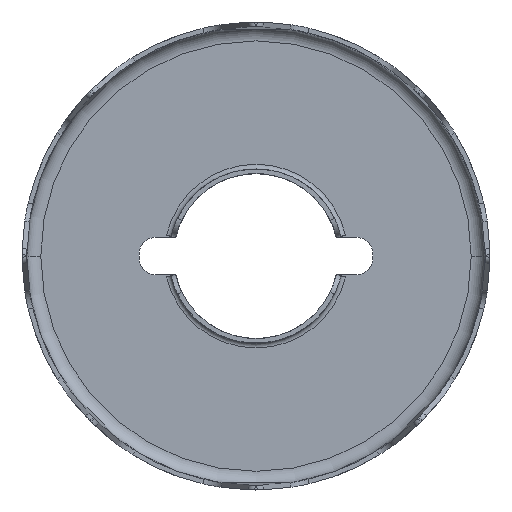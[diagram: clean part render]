
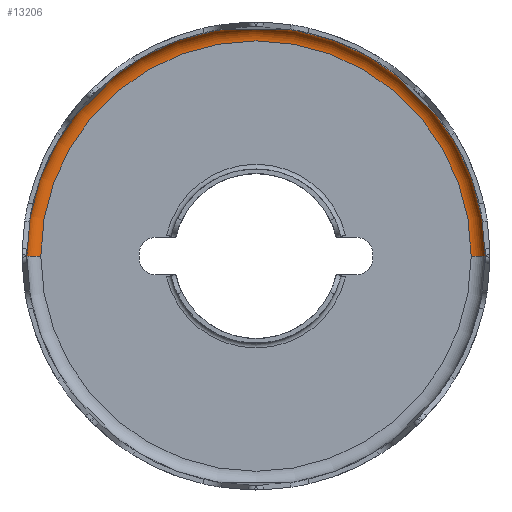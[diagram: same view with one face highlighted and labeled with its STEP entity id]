
A CAD part, top view. The second image highlights one B-rep face of the part: STEP entity #13206.
In plain terms, the highlighted toroidal (fillet/blend) face has major radius 92 mm and minor radius 6 mm.
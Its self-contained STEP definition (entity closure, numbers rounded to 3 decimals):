
#813 = ORIENTED_EDGE ( 'NONE', *, *, #1983, .F. ) ;
#1365 = CARTESIAN_POINT ( 'NONE',  ( 92., 0., 2. ) ) ;
#1983 = EDGE_CURVE ( 'NONE', #25259, #7164, #10648, .T. ) ;
#2494 = CARTESIAN_POINT ( 'NONE',  ( 98., 0., 8. ) ) ;
#2560 = EDGE_CURVE ( 'NONE', #13055, #15008, #9687, .T. ) ;
#3697 = EDGE_LOOP ( 'NONE', ( #813, #11362, #20139, #10421 ) ) ;
#4450 = CARTESIAN_POINT ( 'NONE',  ( 0., 0., 8. ) ) ;
#6452 = AXIS2_PLACEMENT_3D ( 'NONE', #9798, #16949, #19279 ) ;
#7164 = VERTEX_POINT ( 'NONE', #20757 ) ;
#9040 = DIRECTION ( 'NONE',  ( 0., 1., 0. ) ) ;
#9687 = CIRCLE ( 'NONE', #18626, 6. ) ;
#9747 = DIRECTION ( 'NONE',  ( 0., 0., -1. ) ) ;
#9798 = CARTESIAN_POINT ( 'NONE',  ( 0., 0., 2. ) ) ;
#10421 = ORIENTED_EDGE ( 'NONE', *, *, #12996, .F. ) ;
#10648 = CIRCLE ( 'NONE', #27973, 6. ) ;
#11311 = CIRCLE ( 'NONE', #20745, 98. ) ;
#11362 = ORIENTED_EDGE ( 'NONE', *, *, #24738, .F. ) ;
#11563 = DIRECTION ( 'NONE',  ( 0., 0., 1. ) ) ;
#12996 = EDGE_CURVE ( 'NONE', #7164, #15008, #11311, .T. ) ;
#13055 = VERTEX_POINT ( 'NONE', #1365 ) ;
#13206 = ADVANCED_FACE ( 'NONE', ( #25358 ), #25684, .F. ) ;
#15008 = VERTEX_POINT ( 'NONE', #2494 ) ;
#16878 = DIRECTION ( 'NONE',  ( 0., 0., -1. ) ) ;
#16949 = DIRECTION ( 'NONE',  ( 0., 0., 1. ) ) ;
#17855 = CIRCLE ( 'NONE', #6452, 92. ) ;
#18626 = AXIS2_PLACEMENT_3D ( 'NONE', #26627, #28493, #9747 ) ;
#19129 = DIRECTION ( 'NONE',  ( -1., 0., 0. ) ) ;
#19269 = AXIS2_PLACEMENT_3D ( 'NONE', #4450, #11563, #30454 ) ;
#19279 = DIRECTION ( 'NONE',  ( 1., 0., 0. ) ) ;
#20139 = ORIENTED_EDGE ( 'NONE', *, *, #2560, .T. ) ;
#20745 = AXIS2_PLACEMENT_3D ( 'NONE', #26762, #16878, #24147 ) ;
#20757 = CARTESIAN_POINT ( 'NONE',  ( -98., 0., 8. ) ) ;
#21030 = CARTESIAN_POINT ( 'NONE',  ( -92., 0., 2. ) ) ;
#24147 = DIRECTION ( 'NONE',  ( 1., 0., 0. ) ) ;
#24738 = EDGE_CURVE ( 'NONE', #13055, #25259, #17855, .T. ) ;
#25259 = VERTEX_POINT ( 'NONE', #21030 ) ;
#25358 = FACE_OUTER_BOUND ( 'NONE', #3697, .T. ) ;
#25684 = TOROIDAL_SURFACE ( 'NONE', #19269, 92., 6. ) ;
#26627 = CARTESIAN_POINT ( 'NONE',  ( 92., 0., 8. ) ) ;
#26762 = CARTESIAN_POINT ( 'NONE',  ( 0., 0., 8. ) ) ;
#27973 = AXIS2_PLACEMENT_3D ( 'NONE', #30411, #9040, #19129 ) ;
#28493 = DIRECTION ( 'NONE',  ( 0., -1., 0. ) ) ;
#30411 = CARTESIAN_POINT ( 'NONE',  ( -92., 0., 8. ) ) ;
#30454 = DIRECTION ( 'NONE',  ( 1., 0., 0. ) ) ;
